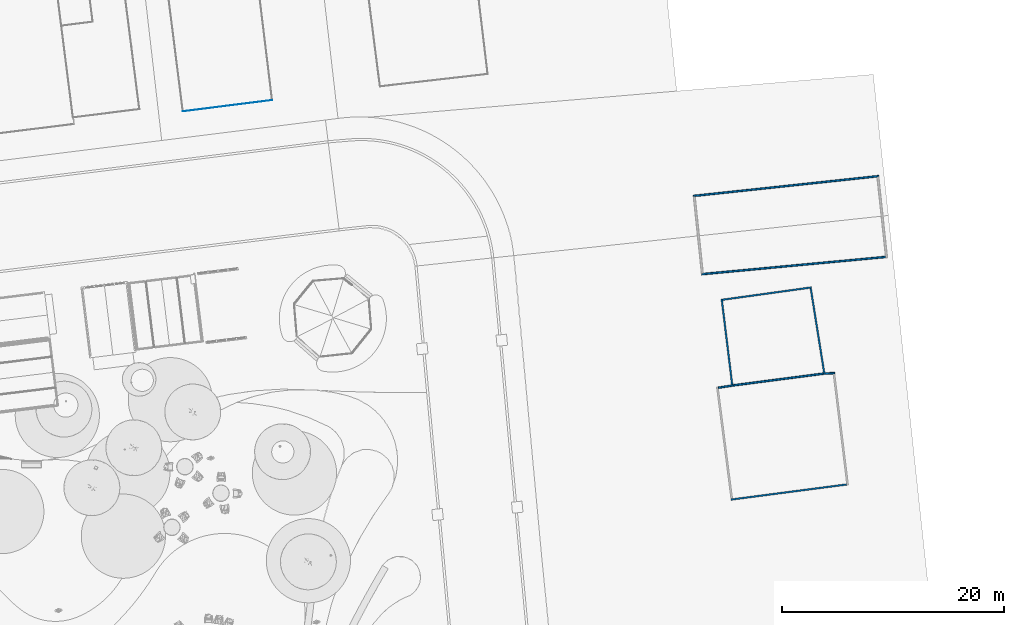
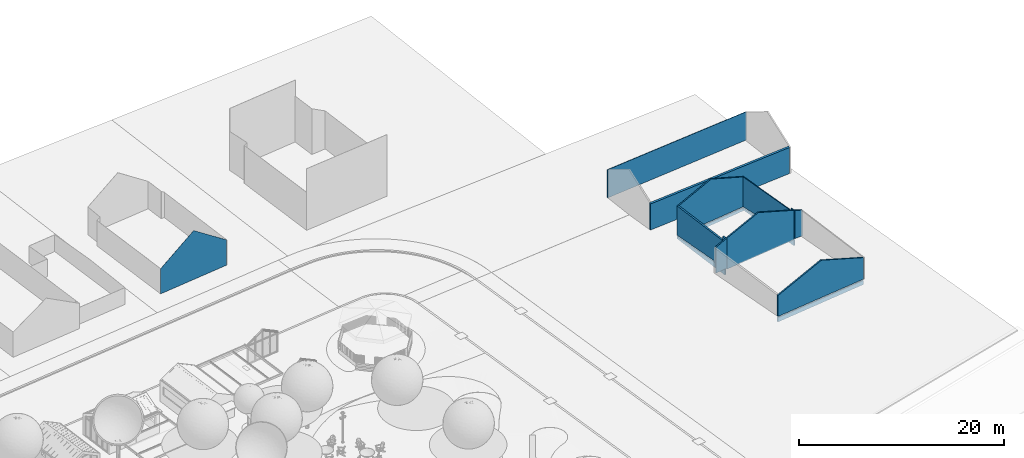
# One storey, part 33 of 75: 10 walls, 4 openings.
"""IFC2X3 building model written with IfcOpenShell, lengths in metres."""

from ifc_helpers import new_model, entity, si_unit, converted_unit, derived_unit, direction, frame, origin, place, context, subcontext, project, spatial, polyline, outline, extrude, clip, bounded_halfspace, material, layer, layer_set, layer_usage, type_object, element, save


model = new_model("IFC2X3")

# Units and contexts
model_context = context("Model", 3, precision=1e-05, world=origin(), true_north=direction((6.123031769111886e-17, 1.0)))
body_context = subcontext(model_context, "Body", "Model", "MODEL_VIEW")
ifc_project = project(units=[si_unit("LENGTHUNIT", "METRE"), si_unit("AREAUNIT", "SQUARE_METRE"), si_unit("VOLUMEUNIT", "CUBIC_METRE"), converted_unit("PLANEANGLEUNIT", "DEGREE", entity("IfcRatioMeasure", 0.017453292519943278), si_unit("PLANEANGLEUNIT", "RADIAN"), dimensions=[0, 0, 0, 0, 0, 0, 0]), si_unit("MASSUNIT", "GRAM", prefix="KILO"), derived_unit("MASSDENSITYUNIT", [(si_unit("MASSUNIT", "GRAM", prefix="KILO"), 1), (si_unit("LENGTHUNIT", "METRE"), -3)]), derived_unit("IONCONCENTRATIONUNIT", [(si_unit("MASSUNIT", "GRAM", prefix="KILO"), 1), (si_unit("LENGTHUNIT", "METRE"), -3)]), derived_unit("MOMENTOFINERTIAUNIT", [(si_unit("LENGTHUNIT", "METRE"), 4)]), si_unit("TIMEUNIT", "SECOND"), si_unit("FREQUENCYUNIT", "HERTZ"), si_unit("THERMODYNAMICTEMPERATUREUNIT", "DEGREE_CELSIUS"), derived_unit("THERMALTRANSMITTANCEUNIT", [(si_unit("MASSUNIT", "GRAM", prefix="KILO"), 1), (si_unit("THERMODYNAMICTEMPERATUREUNIT", "KELVIN"), -1), (si_unit("TIMEUNIT", "SECOND"), -3)]), derived_unit("THERMALCONDUCTANCEUNIT", [(si_unit("MASSUNIT", "GRAM", prefix="KILO"), 1), (si_unit("THERMODYNAMICTEMPERATUREUNIT", "KELVIN"), -1), (si_unit("TIMEUNIT", "SECOND"), -3), (si_unit("LENGTHUNIT", "METRE"), 1)]), derived_unit("VOLUMETRICFLOWRATEUNIT", [(si_unit("LENGTHUNIT", "METRE"), 3), (si_unit("TIMEUNIT", "SECOND"), -1)]), derived_unit("MASSFLOWRATEUNIT", [(si_unit("MASSUNIT", "GRAM", prefix="KILO"), 1), (si_unit("TIMEUNIT", "SECOND"), -1)]), derived_unit("ROTATIONALFREQUENCYUNIT", [(si_unit("TIMEUNIT", "SECOND"), -1)]), si_unit("ELECTRICCURRENTUNIT", "AMPERE"), si_unit("ELECTRICVOLTAGEUNIT", "VOLT"), si_unit("POWERUNIT", "WATT"), si_unit("FORCEUNIT", "NEWTON", prefix="KILO"), si_unit("ILLUMINANCEUNIT", "LUX"), si_unit("LUMINOUSFLUXUNIT", "LUMEN"), si_unit("LUMINOUSINTENSITYUNIT", "CANDELA"), derived_unit("USERDEFINED", [(si_unit("MASSUNIT", "GRAM", prefix="KILO"), -1), (si_unit("LENGTHUNIT", "METRE"), -2), (si_unit("TIMEUNIT", "SECOND"), 3), (si_unit("LUMINOUSFLUXUNIT", "LUMEN"), 1)]), derived_unit("USERDEFINED", [(si_unit("MASSUNIT", "GRAM", prefix="KILO"), 1), (si_unit("TIMEUNIT", "SECOND"), -3), (si_unit("LENGTHUNIT", "METRE"), 3), (si_unit("ELECTRICCURRENTUNIT", "AMPERE"), -2)]), derived_unit("SOUNDPOWERUNIT", [(si_unit("MASSUNIT", "GRAM", prefix="KILO"), 1), (si_unit("TIMEUNIT", "SECOND"), -3), (si_unit("LENGTHUNIT", "METRE"), 2)]), derived_unit("SOUNDPRESSUREUNIT", [(si_unit("MASSUNIT", "GRAM", prefix="KILO"), 1), (si_unit("LENGTHUNIT", "METRE"), -1), (si_unit("TIMEUNIT", "SECOND"), -2)]), derived_unit("LINEARVELOCITYUNIT", [(si_unit("LENGTHUNIT", "METRE"), 1), (si_unit("TIMEUNIT", "SECOND"), -1)]), si_unit("PRESSUREUNIT", "PASCAL"), derived_unit("USERDEFINED", [(si_unit("MASSUNIT", "GRAM", prefix="KILO"), 1), (si_unit("LENGTHUNIT", "METRE"), -2), (si_unit("TIMEUNIT", "SECOND"), -2)]), derived_unit("LINEARFORCEUNIT", [(si_unit("MASSUNIT", "GRAM", prefix="KILO"), 1), (si_unit("TIMEUNIT", "SECOND"), -2)]), derived_unit("PLANARFORCEUNIT", [(si_unit("MASSUNIT", "GRAM", prefix="KILO"), 1), (si_unit("LENGTHUNIT", "METRE"), -1), (si_unit("TIMEUNIT", "SECOND"), -2)]), derived_unit("SPECIFICHEATCAPACITYUNIT", [(si_unit("THERMODYNAMICTEMPERATUREUNIT", "KELVIN"), -1), (si_unit("LENGTHUNIT", "METRE"), 2), (si_unit("TIMEUNIT", "SECOND"), -2)]), derived_unit("HEATINGVALUEUNIT", [(si_unit("LENGTHUNIT", "METRE"), 2), (si_unit("TIMEUNIT", "SECOND"), -2)]), derived_unit("VAPORPERMEABILITYUNIT", [(si_unit("LENGTHUNIT", "METRE"), -1), (si_unit("TIMEUNIT", "SECOND"), 1)]), derived_unit("DYNAMICVISCOSITYUNIT", [(si_unit("MASSUNIT", "GRAM", prefix="KILO"), 1), (si_unit("TIMEUNIT", "SECOND"), -1), (si_unit("LENGTHUNIT", "METRE"), -1)]), derived_unit("THERMALEXPANSIONCOEFFICIENTUNIT", [(si_unit("THERMODYNAMICTEMPERATUREUNIT", "KELVIN"), -1)]), derived_unit("MODULUSOFELASTICITYUNIT", [(si_unit("MASSUNIT", "GRAM", prefix="KILO"), 1), (si_unit("LENGTHUNIT", "METRE"), -1), (si_unit("TIMEUNIT", "SECOND"), -2)]), derived_unit("ISOTHERMALMOISTURECAPACITYUNIT", [(si_unit("LENGTHUNIT", "METRE"), 3), (si_unit("MASSUNIT", "GRAM", prefix="KILO"), -1)]), derived_unit("MOISTUREDIFFUSIVITYUNIT", [(si_unit("TIMEUNIT", "SECOND"), -1), (si_unit("LENGTHUNIT", "METRE"), 2)])], contexts=[model_context])

# Site, building, storey
site_placement = place(None, origin())
site = spatial("IfcSite", under=ifc_project, at=site_placement, Name="Default", CompositionType="ELEMENT")
building_placement = place(site_placement, origin())
building = spatial("IfcBuilding", under=site, at=building_placement, Name="Projeto", CompositionType="ELEMENT")
storey_placement = place(building_placement, origin())
storey = spatial("IfcBuildingStorey", under=building, at=storey_placement, Name="Nível 1", CompositionType="ELEMENT", Elevation=0.0)

# Walls
ifc_material_1 = material(Name="Metal")
ifc_layer_1 = layer(ifc_material_1, 0.01)
ifc_layer_set_1 = layer_set([ifc_layer_1], Name="Parede básica:JA_Aluminio")
ifc_layer_usage_1 = layer_usage(ifc_layer_set_1, "AXIS2", "NEGATIVE", 0.005)
wall_type_1 = type_object("IfcWallType", Name="Parede básica:JA_Aluminio", PredefinedType="STANDARD", material=ifc_layer_set_1)
wall_1_placement = place(storey_placement, frame((14.593330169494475, 51.18020642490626, -2.6), z_axis=(0.0, 0.0, 1.0), x_axis=(-0.9920933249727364, -0.12550232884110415, 0.0)))
element("IfcWallStandardCase", 1, at=wall_1_placement, inside=storey, type_object=wall_type_1, material=ifc_layer_usage_1, Name="Parede básica:JA_Aluminio", ObjectType="Parede básica:JA_Aluminio", context=body_context, shape_type="Clipping", body=[
    clip(clip(extrude(outline(polyline([(8.104430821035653, -0.005000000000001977), (8.104432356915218, 0.005000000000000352), (4.391895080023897e-05, 0.0050000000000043), (0.0, -0.004999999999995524), (8.094430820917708, -0.004999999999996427), (8.104430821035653, -0.005000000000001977)])), origin(), (0.0, 0.0, 1.0), 5.840879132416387), bounded_halfspace(frame((4.047234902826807, -0.004999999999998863, 5.840879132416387), z_axis=(0.5735764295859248, -8.809443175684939e-05, 0.8191520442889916), x_axis=(0.0001535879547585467, 0.9999999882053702, 0.0)), False, frame((4.047234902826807, -0.004999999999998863, 5.840879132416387)), polyline([(0.0, 0.0), (4.047195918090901, 0.0), (4.0571959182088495, 0.0), (4.057197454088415, 0.009999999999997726), (2.2727313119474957e-05, 0.01000000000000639), (0.0, 0.0)]))), bounded_halfspace(frame((0.0, -0.004999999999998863, 3.0070020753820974), z_axis=(-0.5735709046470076, 0.0025190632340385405, 0.8191520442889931), x_axis=(-0.00439185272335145, -0.9999903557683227, 0.0)), False, frame((0.0, -0.004999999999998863, 3.0070020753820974)), polyline([(0.0, 0.0), (4.047234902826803, 0.0), (4.047257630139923, 0.01000000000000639), (4.391895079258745e-05, 0.009999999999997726), (0.0, 0.0)]))),
])
ifc_material_2 = material(Name="<Unnamed>")
ifc_layer_2 = layer(ifc_material_2, 0.03)
ifc_layer_3 = layer(ifc_material_2, 0.09)
ifc_layer_4 = layer(ifc_material_2, 0.03)
ifc_layer_set_2 = layer_set([ifc_layer_2, ifc_layer_3, ifc_layer_4], Name="Parede básica:15cm")
ifc_layer_usage_2 = layer_usage(ifc_layer_set_2, "AXIS2", "NEGATIVE", 0.075)
wall_type_2 = type_object("IfcWallType", Name="Parede básica:15cm", PredefinedType="STANDARD", material=ifc_layer_set_2)
wall_2_placement = place(storey_placement, frame((54.773076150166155, 25.27858097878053, -1.8903866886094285), z_axis=(0.0, 0.0, 1.0), x_axis=(0.9881870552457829, 0.15325254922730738, 0.0)))
element("IfcWallStandardCase", 2, at=wall_2_placement, inside=storey, type_object=wall_type_2, material=ifc_layer_usage_2, Name="Parede básica:15cm", ObjectType="Parede básica:15cm", context=body_context, shape_type="Clipping", body=[
    clip(clip(extrude(outline(polyline([(0.0, -0.07500000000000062), (1.3504277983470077, -0.07499999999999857), (1.3552408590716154, 0.07500000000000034), (1.205163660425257, 0.07500000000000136), (0.0038791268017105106, 0.0750000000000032), (0.0, -0.07500000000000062)])), origin(), (0.0, 0.0, 1.0), 3.591360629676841), bounded_halfspace(frame((0.0, -0.07500000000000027, 3.0996695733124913), z_axis=(-0.34190583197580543, 0.00884197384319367, 0.9396926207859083), x_axis=(-0.025852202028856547, -0.9996657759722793, 0.0)), False, frame((0.0, -0.07500000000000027, 3.0996695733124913)), polyline([(0.0, 0.0), (1.3504277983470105, 0.0), (1.3552408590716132, 0.15000000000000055), (1.2051636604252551, 0.15000000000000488), (0.003879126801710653, 0.1500000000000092), (0.0, 0.0)]))), bounded_halfspace(frame((1.350427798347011, -0.07499999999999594, 0.007949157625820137), z_axis=(0.0032002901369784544, 0.05281745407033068, 0.9985990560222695), x_axis=(-0.06039587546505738, -0.9967709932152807, 0.05291432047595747)), True, frame((1.350427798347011, -0.07499999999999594, 0.007949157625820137), z_axis=(0.0032002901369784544, 0.05281745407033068, 0.9985990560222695), x_axis=(-0.06039587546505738, -0.9967709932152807, 0.05291432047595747)), polyline([(0.0, 0.0), (-0.15043771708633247, -0.00427382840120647), (-0.14133547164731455, -0.1542864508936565), (-0.06847705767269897, -1.355054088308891), (0.0819040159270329, -1.3498467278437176), (0.0, 0.0)]))),
])

# Wall, opening
wall_3_placement = place(storey_placement, frame((56.02695386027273, 25.54650056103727, -2.7234638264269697), z_axis=(0.0, 0.0, 1.0), x_axis=(-0.12148199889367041, 0.9925936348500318, 0.0)))
wall_3 = element("IfcWallStandardCase", 3, at=wall_3_placement, inside=storey, type_object=wall_type_2, material=ifc_layer_usage_2, Name="Parede básica:15cm", ObjectType="Parede básica:15cm", context=body_context, shape_type="Clipping", body=[
    clip(clip(extrude(outline(polyline([(7.778587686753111, -0.07500000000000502), (7.776208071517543, 0.07499999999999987), (0.0, 0.07500000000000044), (0.004813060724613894, -0.07499999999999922), (7.778587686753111, -0.07500000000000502)])), origin(), (0.0, 0.0, 1.0), 4.425261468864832), bounded_halfspace(frame((0.0, 0.07500000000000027, 4.3698323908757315), z_axis=(-0.0021276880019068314, 0.34201352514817, 0.9396926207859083), x_axis=(-0.9999806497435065, -0.006220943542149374, 0.0)), False, frame((0.0, 0.07500000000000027, 4.3698323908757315)), polyline([(0.0, 0.0), (0.004813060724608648, -0.14999999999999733), (0.3686004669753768, -0.1499999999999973), (0.3685662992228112, 0.0), (0.0, 0.0)]))), bounded_halfspace(frame((7.778587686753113, -0.07499999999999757, 3.9600444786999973), z_axis=(0.0, 0.34202014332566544, 0.9396926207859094), x_axis=(-1.0, 0.0, 0.0)), False, frame((7.778587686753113, -0.07499999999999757, 3.9600444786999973)), polyline([(0.0, 0.0), (-0.002379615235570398, 0.15000000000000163), (-7.410021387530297, 0.14999999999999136), (-7.409987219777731, 0.0), (-0.15001887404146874, 0.0), (0.0, 0.0)]))),
])
opening_1_placement = place(storey_placement, frame((56.02695386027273, 25.54650056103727, -2.7234638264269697), z_axis=(0.0, 0.0, 1.0), x_axis=(-0.12148199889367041, 0.9925936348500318, 0.0)))
element("IfcOpeningElement", 4, at=opening_1_placement, cuts=wall_3, Name="Parede básica:15cm:1", ObjectType="Opening", context=body_context, shape_type="SweptSolid", body=[
    extrude(outline(polyline([(-4.6393118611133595, -0.06000006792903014), (2.9951306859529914, -0.06000006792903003), (3.145359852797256, -0.06000006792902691), (3.1429649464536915, 0.09000010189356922), (-4.644143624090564, 0.09000010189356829), (-4.6393118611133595, -0.06000006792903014)])), frame((4.637635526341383, -0.015000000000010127, 0.43756983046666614), z_axis=(0.05289292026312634, -0.00150475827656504, 0.9985990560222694), x_axis=(0.998600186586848, 0.0, -0.05289298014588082)), (-0.05289298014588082, 0.0015026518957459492, 0.9985990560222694), 0.15063219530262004),
])

wall_4_placement = place(storey_placement, frame((55.16437374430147, 33.20197119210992, -2.8121660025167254), z_axis=(0.0, 0.0, 1.0), x_axis=(0.9905417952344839, 0.13721134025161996, 0.0)))
wall_4 = element("IfcWallStandardCase", 5, at=wall_4_placement, inside=storey, type_object=wall_type_2, material=ifc_layer_usage_2, Name="Parede básica:15cm", ObjectType="Parede básica:15cm", context=body_context, shape_type="Clipping", body=[
    clip(clip(extrude(outline(polyline([(8.078113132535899, -0.07499999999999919), (8.075060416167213, 0.0750000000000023), (0.0023796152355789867, 0.07499999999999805), (0.0, -0.07500000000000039), (8.078113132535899, -0.07499999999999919)])), origin(), (0.0, 0.0, 1.0), 5.491299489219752), bounded_halfspace(frame((0.0023796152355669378, 0.07500000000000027, 4.0487466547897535), z_axis=(-0.3419771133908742, 0.0054251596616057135, 0.9396926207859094), x_axis=(-0.015862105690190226, -0.9998741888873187, 0.0)), False, frame((0.0023796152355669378, 0.07500000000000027, 4.0487466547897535)), polyline([(0.0, 0.0), (-0.0023796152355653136, -0.15000000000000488), (3.9615004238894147, -0.15000000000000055), (3.961163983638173, 0.0), (0.0, 0.0)]))), bounded_halfspace(frame((8.078113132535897, -0.07500000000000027, 3.9941511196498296), z_axis=(0.34194933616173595, 0.006959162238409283, 0.9396926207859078), x_axis=(-0.02034722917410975, 0.9997929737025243, 0.0)), False, frame((8.078113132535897, -0.07500000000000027, 3.9941511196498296)), polyline([(0.0, 0.0), (-0.0030527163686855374, 0.14999999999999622), (-4.1145695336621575, 0.15000000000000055), (-4.114233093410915, 0.0), (-0.15003106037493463, 0.0), (0.0, 0.0)]))),
])
opening_2_placement = place(storey_placement, frame((55.16437374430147, 33.20197119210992, -2.8121660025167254), z_axis=(0.0, 0.0, 1.0), x_axis=(0.9905417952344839, 0.13721134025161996, 0.0)))
element("IfcOpeningElement", 6, at=opening_2_placement, cuts=wall_4, Name="Parede básica:15cm:1", ObjectType="Opening", context=body_context, shape_type="SweptSolid", body=[
    extrude(outline(polyline([(-4.816747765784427, -0.060084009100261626), (3.1113561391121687, -0.06008400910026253), (3.2613876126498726, -0.06008400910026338), (3.258353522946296, 0.09012601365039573), (-4.814349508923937, 0.09012601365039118), (-4.816747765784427, -0.060084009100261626)])), frame((4.816727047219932, -0.015000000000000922, 0.3532801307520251), z_axis=(0.0023435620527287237, 0.05286239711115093, 0.9985990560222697), x_axis=(0.9999972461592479, 0.0, -0.002346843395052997)), (-0.002346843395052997, -0.052862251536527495, 0.9985990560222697), 0.15063219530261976),
])

wall_5_placement = place(storey_placement, frame((63.10182710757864, 34.22730365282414, -2.695507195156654), z_axis=(0.0, 0.0, 1.0), x_axis=(0.15733771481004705, -0.9875448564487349, 0.0)))
wall_5 = element("IfcWallStandardCase", 7, at=wall_5_placement, inside=storey, type_object=wall_type_2, material=ifc_layer_usage_2, Name="Parede básica:15cm", ObjectType="Parede básica:15cm", context=body_context, shape_type="Clipping", body=[
    clip(clip(extrude(outline(polyline([(7.841978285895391, -0.07499999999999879), (7.858252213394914, 0.07500000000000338), (0.0030527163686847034, 0.07500000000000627), (0.0, -0.07499999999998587), (7.841978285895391, -0.07499999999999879)])), origin(), (0.0, 0.0, 1.0), 4.222846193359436), bounded_halfspace(frame((0.0, -0.07500000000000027, 3.932087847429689), z_axis=(0.0, 0.3420201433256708, 0.9396926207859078), x_axis=(-1.0, 0.0, 0.0)), False, frame((0.0, -0.07500000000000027, 3.932087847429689)), polyline([(0.0, 0.0), (7.388701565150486, 0.0), (7.394101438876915, 0.1500000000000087), (0.0030527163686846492, 0.15000000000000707), (0.0, 0.0)]))), bounded_halfspace(frame((7.8419782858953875, -0.07499999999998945, 4.216910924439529), z_axis=(0.012304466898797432, 0.3417987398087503, 0.9396926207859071), x_axis=(-0.9993526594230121, 0.03597585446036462, 0.0)), False, frame((7.8419782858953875, -0.07499999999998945, 4.216910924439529)), polyline([(0.0, 0.0), (0.01627392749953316, 0.14999999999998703), (-0.13460629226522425, 0.14999999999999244), (-0.44787684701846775, 0.14999999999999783), (-0.45327672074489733, 0.0), (-0.15006123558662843, 0.0), (0.0, 0.0)]))),
])
opening_3_placement = place(storey_placement, frame((63.10182710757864, 34.22730365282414, -2.695507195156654), z_axis=(0.0, 0.0, 1.0), x_axis=(0.15733771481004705, -0.9875448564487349, 0.0)))
element("IfcOpeningElement", 8, at=opening_3_placement, cuts=wall_5, Name="Parede básica:15cm:1", ObjectType="Opening", context=body_context, shape_type="SweptSolid", body=[
    extrude(outline(polyline([(-3.9312918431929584, -0.07500043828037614), (3.921642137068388, -0.07500043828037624), (3.9379116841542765, 0.07500043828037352), (-3.9282619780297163, 0.07500043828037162), (-3.9312918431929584, -0.07500043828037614)])), frame((3.925820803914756, 0.0, 0.43982782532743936), z_axis=(-0.05280376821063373, 0.0034186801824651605, 0.9985990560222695), x_axis=(0.998604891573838, 0.0, 0.05280407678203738)), (0.05280407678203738, -0.0034139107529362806, 0.9985990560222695), 0.15063219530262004),
])

# Wall
wall_6_placement = place(storey_placement, frame((64.39229601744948, 26.552821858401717, -1.9057654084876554), z_axis=(0.0, 0.0, 1.0), x_axis=(0.9987540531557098, 0.04990331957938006, 0.0)))
element("IfcWallStandardCase", 9, at=wall_6_placement, inside=storey, type_object=wall_type_2, material=ifc_layer_usage_2, Name="Parede básica:15cm", ObjectType="Parede básica:15cm", context=body_context, shape_type="Clipping", body=[
    clip(clip(extrude(outline(polyline([(0.01627392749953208, -0.07499999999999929), (0.7251716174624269, -0.07500000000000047), (0.8755621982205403, -0.07499999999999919), (0.8647304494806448, 0.07499999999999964), (0.0, 0.07499999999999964), (0.01627392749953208, -0.07499999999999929)])), origin(), (0.0, 0.0, 1.0), 3.374371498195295), bounded_halfspace(frame((0.016273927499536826, -0.07500000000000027, 3.3723958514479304), z_axis=(0.34113187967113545, 0.02463369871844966, 0.9396926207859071), x_axis=(-0.07202411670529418, 0.9974028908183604, 0.0)), False, frame((0.016273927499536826, -0.07500000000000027, 3.3723958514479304)), polyline([(0.0, 0.0), (0.7088976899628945, 0.0), (0.8592882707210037, 0.0), (0.8484565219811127, 0.15000000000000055), (-0.016273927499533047, 0.15000000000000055), (0.0, 0.0)]))), bounded_halfspace(frame((0.8755621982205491, -0.07500000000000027, 0.009954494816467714), z_axis=(-0.0022966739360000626, 0.05286445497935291, 0.9985990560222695), x_axis=(0.043342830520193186, -0.9976579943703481, 0.05291432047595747)), True, frame((0.8755621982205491, -0.07500000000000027, 0.009954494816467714), z_axis=(-0.0022966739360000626, 0.05286445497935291, 0.9985990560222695), x_axis=(0.043342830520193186, -0.9976579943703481, 0.05291432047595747)), polyline([(0.0, 0.0), (-0.15075087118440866, -0.0043170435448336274), (-0.1883887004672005, -0.8694445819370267), (-0.03740095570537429, -0.859682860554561), (-0.006545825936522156, -0.15045964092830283), (0.0, 0.0)]))),
])

# Wall, opening
wall_7_placement = place(storey_placement, frame((66.34089804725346, 16.56467929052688, -2.0), z_axis=(0.0, 0.0, 1.0), x_axis=(-0.9915747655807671, -0.12953564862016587, 0.0)))
wall_7 = element("IfcWallStandardCase", 10, at=wall_7_placement, inside=storey, type_object=wall_type_2, material=ifc_layer_usage_2, Name="Parede básica:15cm", ObjectType="Parede básica:15cm", context=body_context, shape_type="Clipping", body=[
    clip(clip(extrude(outline(polyline([(10.508750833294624, -0.07499999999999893), (10.50903536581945, 0.07500000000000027), (0.0011835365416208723, 0.07499999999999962), (0.0, -0.07500000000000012), (10.358750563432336, -0.07500000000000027), (10.508750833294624, -0.07499999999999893)])), origin(), (0.0, 0.0, 1.0), 5.094390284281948), bounded_halfspace(frame((10.508750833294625, -0.07499999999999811, 3.1546873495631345), z_axis=(0.34201952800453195, -0.000648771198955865, 0.9396926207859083), x_axis=(0.0018968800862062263, 0.9999982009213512, 0.0)), False, frame((10.508750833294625, -0.07499999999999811, 3.1546873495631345)), polyline([(0.0, 0.0), (0.0002845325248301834, 0.14999999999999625), (-5.328565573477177, 0.14999999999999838), (-5.329299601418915, 0.0), (-0.15000026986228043, 0.0), (0.0, 0.0)]))), bounded_halfspace(frame((0.001183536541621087, 0.07499999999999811, 3.2092828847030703), z_axis=(-0.3420094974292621, 0.002698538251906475, 0.9396926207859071), x_axis=(-0.007889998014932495, -0.9999688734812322, 0.0)), False, frame((0.001183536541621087, 0.07499999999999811, 3.2092828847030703)), polyline([(0.0, 0.0), (-0.0011835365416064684, -0.15000000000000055), (5.178267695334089, -0.15000000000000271), (5.179001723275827, 0.0), (0.0, 0.0)]))),
])
opening_4_placement = place(storey_placement, frame((66.34089804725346, 16.56467929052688, -2.0), z_axis=(0.0, 0.0, 1.0), x_axis=(-0.9915747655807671, -0.12953564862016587, 0.0)))
element("IfcOpeningElement", 11, at=opening_4_placement, cuts=wall_7, Name="Parede básica:15cm:1", ObjectType="Opening", context=body_context, shape_type="SweptSolid", body=[
    extrude(outline(polyline([(-6.275561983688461, -0.06008406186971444), (4.083208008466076, -0.06008406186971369), (4.23320855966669, -0.06008406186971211), (4.233508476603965, 0.09012609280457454), (-6.274363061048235, 0.0901260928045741), (-6.275561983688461, -0.06008406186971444)])), frame((6.2755440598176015, -0.015000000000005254, 0.49593184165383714), z_axis=(-0.0019340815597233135, -0.0528789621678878, 0.9985990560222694), x_axis=(0.9999981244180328, 0.0, 0.001936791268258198)), (0.001936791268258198, 0.0528788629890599, 0.9985990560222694), 0.15063219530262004),
])

# Walls
ifc_layer_usage_3 = layer_usage(ifc_layer_set_2, "AXIS2", "POSITIVE", -0.075)
wall_8_placement = place(storey_placement, frame((56.109365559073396, 25.485796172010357, -2.0), z_axis=(0.0, 0.0, 1.0), x_axis=(0.991636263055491, 0.12906402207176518, 0.0)))
element("IfcWallStandardCase", 12, at=wall_8_placement, inside=storey, type_object=wall_type_2, material=ifc_layer_usage_3, Name="Parede básica:15cm", ObjectType="Parede básica:15cm", context=body_context, shape_type="Clipping", body=[
    clip(clip(extrude(outline(polyline([(8.211231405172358, -0.07499999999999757), (8.206944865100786, 0.07500000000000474), (0.0011463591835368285, 0.07500000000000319), (0.0, -0.07499999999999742), (8.211231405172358, -0.07499999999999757)])), origin(), (0.0, 0.0, 1.0), 5.105481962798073), bounded_halfspace(frame((0.0, -0.07499999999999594, 3.700634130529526), z_axis=(-0.3420197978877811, 0.0004861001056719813, 0.9396926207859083), x_axis=(-0.0014212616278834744, -0.9999989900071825, 0.0)), False, frame((0.0, -0.07499999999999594, 3.700634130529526)), polyline([(0.0, 0.0), (3.859342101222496, 0.0), (3.860004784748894, 0.15000000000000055), (0.00114635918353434, 0.15000000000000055), (0.0, 0.0)]))), bounded_halfspace(frame((3.8593421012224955, -0.07499999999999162, 5.105318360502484), z_axis=(0.34201074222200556, -0.0025358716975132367, 0.9396926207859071), x_axis=(0.007414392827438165, 0.9999725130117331, 0.0)), False, frame((3.8593421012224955, -0.07499999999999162, 5.105318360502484)), polyline([(0.0, 0.0), (4.351889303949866, 0.0), (4.347602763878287, 0.1499999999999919), (0.0006626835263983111, 0.1499999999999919), (0.0, 0.0)]))),
])
wall_9_placement = place(storey_placement, frame((52.53071948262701, 42.54649716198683, -2.6000000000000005), z_axis=(0.0, 0.0, 1.0), x_axis=(0.9943017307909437, 0.1066023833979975, 0.0)))
element("IfcWallStandardCase", 13, at=wall_9_placement, inside=storey, type_object=wall_type_2, material=ifc_layer_usage_2, Name="Parede básica:15cm", ObjectType="Parede básica:15cm", context=body_context, shape_type="Clipping", body=[
    clip(extrude(outline(polyline([(16.780221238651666, -0.07500000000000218), (16.780188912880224, 0.07499999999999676), (0.0003589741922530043, 0.07499999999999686), (0.0, -0.07499999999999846), (0.15000042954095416, -0.07500000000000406), (16.630221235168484, -0.07499999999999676), (16.780221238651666, -0.07500000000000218)])), origin(), (0.0, 0.0, 1.0), 3.3752776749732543), bounded_halfspace(frame((0.0, -0.07499999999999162, 3.3752776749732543), z_axis=(0.0, 0.49999999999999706, 0.8660254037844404), x_axis=(-1.0, 0.0, 0.0)), False, frame((0.0, -0.07499999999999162, 3.3752776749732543)), polyline([(0.0, 0.0), (0.1500004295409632, 0.0), (16.63022123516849, 0.0), (16.780221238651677, 0.0), (16.780188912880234, 0.1499999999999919), (0.00035897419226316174, 0.14999999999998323), (0.0, 0.0)]))),
])
wall_10_placement = place(storey_placement, frame((69.84745482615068, 37.05628385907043, -2.432967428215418), z_axis=(0.0, 0.0, 1.0), x_axis=(-0.9956280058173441, -0.09340703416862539, 0.0)))
element("IfcWallStandardCase", 14, at=wall_10_placement, inside=storey, type_object=wall_type_2, material=ifc_layer_usage_2, Name="Parede básica:15cm", ObjectType="Parede básica:15cm", context=body_context, shape_type="Clipping", body=[
    clip(clip(extrude(outline(polyline([(0.0020217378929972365, -0.07499999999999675), (16.501834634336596, -0.0749999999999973), (16.651843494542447, -0.07499999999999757), (16.650213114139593, 0.07500000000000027), (0.0, 0.0749999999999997), (0.0020217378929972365, -0.07499999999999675)])), origin(), (0.0, 0.0, 1.0), 3.2082451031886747), bounded_halfspace(frame((0.002021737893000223, -0.07500000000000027, 3.2082451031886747), z_axis=(0.0, 0.5000000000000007, 0.8660254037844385), x_axis=(-1.0, 0.0, 0.0)), False, frame((0.002021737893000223, -0.07500000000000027, 3.2082451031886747)), polyline([(0.0, 0.0), (16.499812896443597, 0.0), (16.649821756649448, 0.0), (16.648191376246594, 0.14999999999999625), (-0.0020217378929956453, 0.14999999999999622), (0.0, 0.0)]))), bounded_halfspace(frame((16.651843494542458, -0.0750000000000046, 0.00017827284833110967), z_axis=(-1.069219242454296e-05, -0.052914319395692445, 0.9985990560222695), x_axis=(0.00020178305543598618, 0.9985990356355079, 0.05291432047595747)), True, frame((16.651843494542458, -0.0750000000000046, 0.00017827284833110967), z_axis=(-1.069219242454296e-05, -0.052914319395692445, 0.9985990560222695), x_axis=(0.00020178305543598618, 0.9985990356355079, 0.05291432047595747)), polyline([(0.0, 0.0), (0.1504208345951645, 0.0016630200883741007), (0.14704694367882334, 16.675234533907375), (-0.0033738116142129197, 16.67317960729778), (0.0, 0.0)]))),
])

save(model, "model.ifc")
